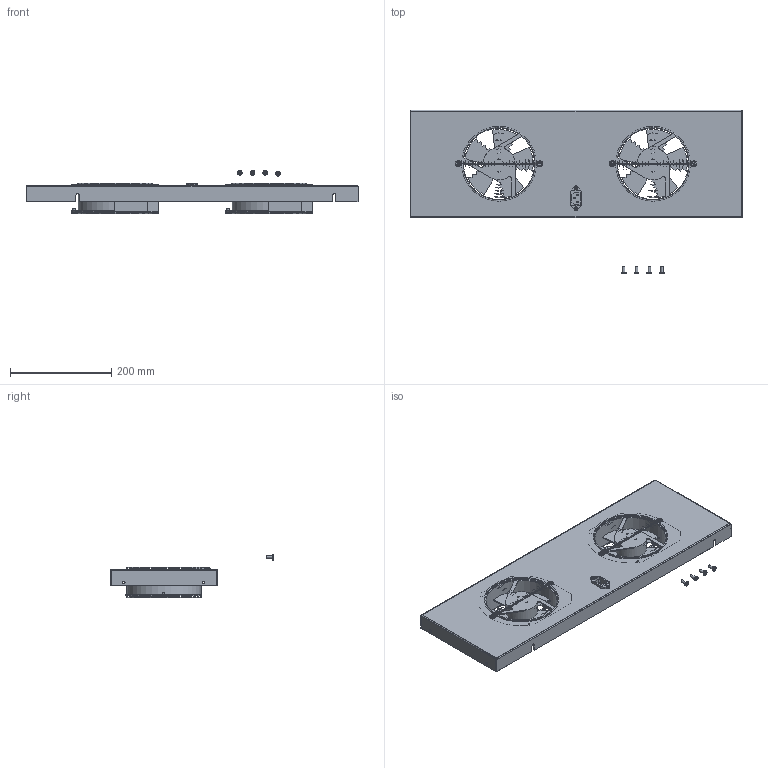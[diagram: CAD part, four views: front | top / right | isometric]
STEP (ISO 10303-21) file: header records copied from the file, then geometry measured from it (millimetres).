
FILE_DESCRIPTION((''),'2;1');
FILE_NAME('Y:\Inventor\I007XXX\I007467\AMFTES24.stp','2011-12-30T10:04:21',('CaiusD'),(''),'Autodesk Inventor 2012','Autodesk Inventor 2012','');
FILE_SCHEMA(('AUTOMOTIVE_DESIGN { 1 0 10303 214 1 1 1 1 }'));
Length unit declared in the file: inch
Products named in the file (8): I007467; I007466; OA172SAP-11-1; G172-10HA; H01-069; iec1; 0404RPF; H01-078
Assembly tree (22 placements, depth 2):
  I007467
    I007466
    OA172SAP-11-1  x2
    G172-10HA  x4
    H01-069  x8
    iec1
    0404RPF  x2
    H01-078  x4
Bounding box: 657.12 x 324.44 x 85.98 mm (x, y, z)
Volume: 915472.6 mm3; surface area: 613752.5 mm2
Topology: 26 solids, 26 shells, 774 faces, 2118 edges, 1330 vertices
Faces by surface type: plane 596, cylinder 110, torus 52, cone 12, sphere 4
Full cylindrical faces by diameter (mm): 2.388 x2, 2.845 x2, 3.175 x2, 4.318 x16, 4.763 x4, 4.801 x4, 4.826 x12, 9.525 x4, 52.371 x2, 63.5 x2, 140.97 x2, 146.05 x4
Entity records: 10859 total; most frequent: CARTESIAN_POINT 1903, DIRECTION 1804, ORIENTED_EDGE 1722, EDGE_CURVE 861, VECTOR 638, LINE 638, AXIS2_PLACEMENT_3D 583, VERTEX_POINT 570
